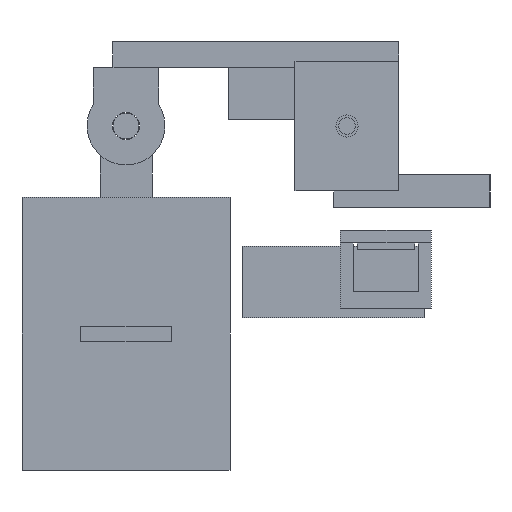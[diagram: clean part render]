
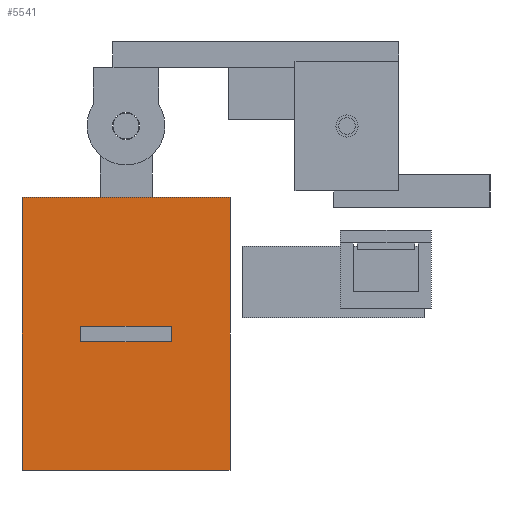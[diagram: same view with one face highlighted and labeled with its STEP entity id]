
A CAD part, left-side view. The second image highlights one B-rep face of the part: STEP entity #5541.
In plain terms, the highlighted planar face has unit normal (-1, 0, 0).
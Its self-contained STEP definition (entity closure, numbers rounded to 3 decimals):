
#5541 = ADVANCED_FACE('',(#5542,#5661),#5556,.F.);
#5542 = FACE_BOUND('',#5543,.F.);
#5543 = EDGE_LOOP('',(#5544,#5579,#5607,#5635));
#5544 = ORIENTED_EDGE('',*,*,#5545,.F.);
#5545 = EDGE_CURVE('',#5546,#5548,#5550,.T.);
#5546 = VERTEX_POINT('',#5547);
#5547 = CARTESIAN_POINT('',(5.,18.,-13.));
#5548 = VERTEX_POINT('',#5549);
#5549 = CARTESIAN_POINT('',(5.,18.,29.));
#5550 = SURFACE_CURVE('',#5551,(#5555,#5567),.PCURVE_S1.);
#5551 = LINE('',#5552,#5553);
#5552 = CARTESIAN_POINT('',(5.,18.,-13.));
#5553 = VECTOR('',#5554,1.);
#5554 = DIRECTION('',(0.,0.,1.));
#5555 = PCURVE('',#5556,#5561);
#5556 = PLANE('',#5557);
#5557 = AXIS2_PLACEMENT_3D('',#5558,#5559,#5560);
#5558 = CARTESIAN_POINT('',(5.,18.,-13.));
#5559 = DIRECTION('',(1.,0.,0.));
#5560 = DIRECTION('',(0.,0.,1.));
#5561 = DEFINITIONAL_REPRESENTATION('',(#5562),#5566);
#5562 = LINE('',#5563,#5564);
#5563 = CARTESIAN_POINT('',(0.,0.));
#5564 = VECTOR('',#5565,1.);
#5565 = DIRECTION('',(1.,0.));
#5566 = ( GEOMETRIC_REPRESENTATION_CONTEXT(2) 
PARAMETRIC_REPRESENTATION_CONTEXT() REPRESENTATION_CONTEXT('2D SPACE',''
  ) );
#5567 = PCURVE('',#5568,#5573);
#5568 = PLANE('',#5569);
#5569 = AXIS2_PLACEMENT_3D('',#5570,#5571,#5572);
#5570 = CARTESIAN_POINT('',(5.,18.,-13.));
#5571 = DIRECTION('',(0.,1.,0.));
#5572 = DIRECTION('',(0.,0.,1.));
#5573 = DEFINITIONAL_REPRESENTATION('',(#5574),#5578);
#5574 = LINE('',#5575,#5576);
#5575 = CARTESIAN_POINT('',(0.,0.));
#5576 = VECTOR('',#5577,1.);
#5577 = DIRECTION('',(1.,0.));
#5578 = ( GEOMETRIC_REPRESENTATION_CONTEXT(2) 
PARAMETRIC_REPRESENTATION_CONTEXT() REPRESENTATION_CONTEXT('2D SPACE',''
  ) );
#5579 = ORIENTED_EDGE('',*,*,#5580,.T.);
#5580 = EDGE_CURVE('',#5546,#5581,#5583,.T.);
#5581 = VERTEX_POINT('',#5582);
#5582 = CARTESIAN_POINT('',(5.,50.,-13.));
#5583 = SURFACE_CURVE('',#5584,(#5588,#5595),.PCURVE_S1.);
#5584 = LINE('',#5585,#5586);
#5585 = CARTESIAN_POINT('',(5.,18.,-13.));
#5586 = VECTOR('',#5587,1.);
#5587 = DIRECTION('',(0.,1.,0.));
#5588 = PCURVE('',#5556,#5589);
#5589 = DEFINITIONAL_REPRESENTATION('',(#5590),#5594);
#5590 = LINE('',#5591,#5592);
#5591 = CARTESIAN_POINT('',(0.,0.));
#5592 = VECTOR('',#5593,1.);
#5593 = DIRECTION('',(0.,-1.));
#5594 = ( GEOMETRIC_REPRESENTATION_CONTEXT(2) 
PARAMETRIC_REPRESENTATION_CONTEXT() REPRESENTATION_CONTEXT('2D SPACE',''
  ) );
#5595 = PCURVE('',#5596,#5601);
#5596 = PLANE('',#5597);
#5597 = AXIS2_PLACEMENT_3D('',#5598,#5599,#5600);
#5598 = CARTESIAN_POINT('',(5.,18.,-13.));
#5599 = DIRECTION('',(0.,0.,1.));
#5600 = DIRECTION('',(1.,0.,0.));
#5601 = DEFINITIONAL_REPRESENTATION('',(#5602),#5606);
#5602 = LINE('',#5603,#5604);
#5603 = CARTESIAN_POINT('',(0.,0.));
#5604 = VECTOR('',#5605,1.);
#5605 = DIRECTION('',(0.,1.));
#5606 = ( GEOMETRIC_REPRESENTATION_CONTEXT(2) 
PARAMETRIC_REPRESENTATION_CONTEXT() REPRESENTATION_CONTEXT('2D SPACE',''
  ) );
#5607 = ORIENTED_EDGE('',*,*,#5608,.T.);
#5608 = EDGE_CURVE('',#5581,#5609,#5611,.T.);
#5609 = VERTEX_POINT('',#5610);
#5610 = CARTESIAN_POINT('',(5.,50.,29.));
#5611 = SURFACE_CURVE('',#5612,(#5616,#5623),.PCURVE_S1.);
#5612 = LINE('',#5613,#5614);
#5613 = CARTESIAN_POINT('',(5.,50.,-13.));
#5614 = VECTOR('',#5615,1.);
#5615 = DIRECTION('',(0.,0.,1.));
#5616 = PCURVE('',#5556,#5617);
#5617 = DEFINITIONAL_REPRESENTATION('',(#5618),#5622);
#5618 = LINE('',#5619,#5620);
#5619 = CARTESIAN_POINT('',(0.,-32.));
#5620 = VECTOR('',#5621,1.);
#5621 = DIRECTION('',(1.,0.));
#5622 = ( GEOMETRIC_REPRESENTATION_CONTEXT(2) 
PARAMETRIC_REPRESENTATION_CONTEXT() REPRESENTATION_CONTEXT('2D SPACE',''
  ) );
#5623 = PCURVE('',#5624,#5629);
#5624 = PLANE('',#5625);
#5625 = AXIS2_PLACEMENT_3D('',#5626,#5627,#5628);
#5626 = CARTESIAN_POINT('',(5.,50.,-13.));
#5627 = DIRECTION('',(0.,1.,0.));
#5628 = DIRECTION('',(0.,0.,1.));
#5629 = DEFINITIONAL_REPRESENTATION('',(#5630),#5634);
#5630 = LINE('',#5631,#5632);
#5631 = CARTESIAN_POINT('',(0.,0.));
#5632 = VECTOR('',#5633,1.);
#5633 = DIRECTION('',(1.,0.));
#5634 = ( GEOMETRIC_REPRESENTATION_CONTEXT(2) 
PARAMETRIC_REPRESENTATION_CONTEXT() REPRESENTATION_CONTEXT('2D SPACE',''
  ) );
#5635 = ORIENTED_EDGE('',*,*,#5636,.F.);
#5636 = EDGE_CURVE('',#5548,#5609,#5637,.T.);
#5637 = SURFACE_CURVE('',#5638,(#5642,#5649),.PCURVE_S1.);
#5638 = LINE('',#5639,#5640);
#5639 = CARTESIAN_POINT('',(5.,18.,29.));
#5640 = VECTOR('',#5641,1.);
#5641 = DIRECTION('',(0.,1.,0.));
#5642 = PCURVE('',#5556,#5643);
#5643 = DEFINITIONAL_REPRESENTATION('',(#5644),#5648);
#5644 = LINE('',#5645,#5646);
#5645 = CARTESIAN_POINT('',(42.,0.));
#5646 = VECTOR('',#5647,1.);
#5647 = DIRECTION('',(0.,-1.));
#5648 = ( GEOMETRIC_REPRESENTATION_CONTEXT(2) 
PARAMETRIC_REPRESENTATION_CONTEXT() REPRESENTATION_CONTEXT('2D SPACE',''
  ) );
#5649 = PCURVE('',#5650,#5655);
#5650 = PLANE('',#5651);
#5651 = AXIS2_PLACEMENT_3D('',#5652,#5653,#5654);
#5652 = CARTESIAN_POINT('',(5.,18.,29.));
#5653 = DIRECTION('',(0.,0.,1.));
#5654 = DIRECTION('',(1.,0.,0.));
#5655 = DEFINITIONAL_REPRESENTATION('',(#5656),#5660);
#5656 = LINE('',#5657,#5658);
#5657 = CARTESIAN_POINT('',(0.,0.));
#5658 = VECTOR('',#5659,1.);
#5659 = DIRECTION('',(0.,1.));
#5660 = ( GEOMETRIC_REPRESENTATION_CONTEXT(2) 
PARAMETRIC_REPRESENTATION_CONTEXT() REPRESENTATION_CONTEXT('2D SPACE',''
  ) );
#5661 = FACE_BOUND('',#5662,.F.);
#5662 = EDGE_LOOP('',(#5663,#5691,#5717,#5743));
#5663 = ORIENTED_EDGE('',*,*,#5664,.T.);
#5664 = EDGE_CURVE('',#5665,#5667,#5669,.T.);
#5665 = VERTEX_POINT('',#5666);
#5666 = CARTESIAN_POINT('',(5.,41.,6.8));
#5667 = VERTEX_POINT('',#5668);
#5668 = CARTESIAN_POINT('',(5.,27.,6.8));
#5669 = SURFACE_CURVE('',#5670,(#5674,#5680),.PCURVE_S1.);
#5670 = LINE('',#5671,#5672);
#5671 = CARTESIAN_POINT('',(5.,22.5,6.8));
#5672 = VECTOR('',#5673,1.);
#5673 = DIRECTION('',(0.,-1.,0.));
#5674 = PCURVE('',#5556,#5675);
#5675 = DEFINITIONAL_REPRESENTATION('',(#5676),#5679);
#5676 = B_SPLINE_CURVE_WITH_KNOTS('',1,(#5677,#5678),.UNSPECIFIED.,.F.,
  .F.,(2,2),(-18.5,-4.5),.PIECEWISE_BEZIER_KNOTS.);
#5677 = CARTESIAN_POINT('',(19.8,-23.));
#5678 = CARTESIAN_POINT('',(19.8,-9.));
#5679 = ( GEOMETRIC_REPRESENTATION_CONTEXT(2) 
PARAMETRIC_REPRESENTATION_CONTEXT() REPRESENTATION_CONTEXT('2D SPACE',''
  ) );
#5680 = PCURVE('',#5681,#5686);
#5681 = PLANE('',#5682);
#5682 = AXIS2_PLACEMENT_3D('',#5683,#5684,#5685);
#5683 = CARTESIAN_POINT('',(4.,27.,6.8));
#5684 = DIRECTION('',(0.,0.,1.));
#5685 = DIRECTION('',(1.,0.,0.));
#5686 = DEFINITIONAL_REPRESENTATION('',(#5687),#5690);
#5687 = B_SPLINE_CURVE_WITH_KNOTS('',1,(#5688,#5689),.UNSPECIFIED.,.F.,
  .F.,(2,2),(-18.5,-4.5),.PIECEWISE_BEZIER_KNOTS.);
#5688 = CARTESIAN_POINT('',(1.,14.));
#5689 = CARTESIAN_POINT('',(1.,0.));
#5690 = ( GEOMETRIC_REPRESENTATION_CONTEXT(2) 
PARAMETRIC_REPRESENTATION_CONTEXT() REPRESENTATION_CONTEXT('2D SPACE',''
  ) );
#5691 = ORIENTED_EDGE('',*,*,#5692,.T.);
#5692 = EDGE_CURVE('',#5667,#5693,#5695,.T.);
#5693 = VERTEX_POINT('',#5694);
#5694 = CARTESIAN_POINT('',(5.,27.,9.2));
#5695 = SURFACE_CURVE('',#5696,(#5700,#5706),.PCURVE_S1.);
#5696 = LINE('',#5697,#5698);
#5697 = CARTESIAN_POINT('',(5.,27.,-3.1));
#5698 = VECTOR('',#5699,1.);
#5699 = DIRECTION('',(0.,0.,1.));
#5700 = PCURVE('',#5556,#5701);
#5701 = DEFINITIONAL_REPRESENTATION('',(#5702),#5705);
#5702 = B_SPLINE_CURVE_WITH_KNOTS('',1,(#5703,#5704),.UNSPECIFIED.,.F.,
  .F.,(2,2),(9.9,12.3),.PIECEWISE_BEZIER_KNOTS.);
#5703 = CARTESIAN_POINT('',(19.8,-9.));
#5704 = CARTESIAN_POINT('',(22.2,-9.));
#5705 = ( GEOMETRIC_REPRESENTATION_CONTEXT(2) 
PARAMETRIC_REPRESENTATION_CONTEXT() REPRESENTATION_CONTEXT('2D SPACE',''
  ) );
#5706 = PCURVE('',#5707,#5712);
#5707 = PLANE('',#5708);
#5708 = AXIS2_PLACEMENT_3D('',#5709,#5710,#5711);
#5709 = CARTESIAN_POINT('',(4.,27.,6.8));
#5710 = DIRECTION('',(0.,1.,0.));
#5711 = DIRECTION('',(0.,0.,1.));
#5712 = DEFINITIONAL_REPRESENTATION('',(#5713),#5716);
#5713 = B_SPLINE_CURVE_WITH_KNOTS('',1,(#5714,#5715),.UNSPECIFIED.,.F.,
  .F.,(2,2),(9.9,12.3),.PIECEWISE_BEZIER_KNOTS.);
#5714 = CARTESIAN_POINT('',(0.,1.));
#5715 = CARTESIAN_POINT('',(2.4,1.));
#5716 = ( GEOMETRIC_REPRESENTATION_CONTEXT(2) 
PARAMETRIC_REPRESENTATION_CONTEXT() REPRESENTATION_CONTEXT('2D SPACE',''
  ) );
#5717 = ORIENTED_EDGE('',*,*,#5718,.F.);
#5718 = EDGE_CURVE('',#5719,#5693,#5721,.T.);
#5719 = VERTEX_POINT('',#5720);
#5720 = CARTESIAN_POINT('',(5.,41.,9.2));
#5721 = SURFACE_CURVE('',#5722,(#5726,#5732),.PCURVE_S1.);
#5722 = LINE('',#5723,#5724);
#5723 = CARTESIAN_POINT('',(5.,22.5,9.2));
#5724 = VECTOR('',#5725,1.);
#5725 = DIRECTION('',(0.,-1.,0.));
#5726 = PCURVE('',#5556,#5727);
#5727 = DEFINITIONAL_REPRESENTATION('',(#5728),#5731);
#5728 = B_SPLINE_CURVE_WITH_KNOTS('',1,(#5729,#5730),.UNSPECIFIED.,.F.,
  .F.,(2,2),(-18.5,-4.5),.PIECEWISE_BEZIER_KNOTS.);
#5729 = CARTESIAN_POINT('',(22.2,-23.));
#5730 = CARTESIAN_POINT('',(22.2,-9.));
#5731 = ( GEOMETRIC_REPRESENTATION_CONTEXT(2) 
PARAMETRIC_REPRESENTATION_CONTEXT() REPRESENTATION_CONTEXT('2D SPACE',''
  ) );
#5732 = PCURVE('',#5733,#5738);
#5733 = PLANE('',#5734);
#5734 = AXIS2_PLACEMENT_3D('',#5735,#5736,#5737);
#5735 = CARTESIAN_POINT('',(4.,27.,9.2));
#5736 = DIRECTION('',(0.,0.,1.));
#5737 = DIRECTION('',(1.,0.,0.));
#5738 = DEFINITIONAL_REPRESENTATION('',(#5739),#5742);
#5739 = B_SPLINE_CURVE_WITH_KNOTS('',1,(#5740,#5741),.UNSPECIFIED.,.F.,
  .F.,(2,2),(-18.5,-4.5),.PIECEWISE_BEZIER_KNOTS.);
#5740 = CARTESIAN_POINT('',(1.,14.));
#5741 = CARTESIAN_POINT('',(1.,0.));
#5742 = ( GEOMETRIC_REPRESENTATION_CONTEXT(2) 
PARAMETRIC_REPRESENTATION_CONTEXT() REPRESENTATION_CONTEXT('2D SPACE',''
  ) );
#5743 = ORIENTED_EDGE('',*,*,#5744,.F.);
#5744 = EDGE_CURVE('',#5665,#5719,#5745,.T.);
#5745 = SURFACE_CURVE('',#5746,(#5750,#5756),.PCURVE_S1.);
#5746 = LINE('',#5747,#5748);
#5747 = CARTESIAN_POINT('',(5.,41.,-3.1));
#5748 = VECTOR('',#5749,1.);
#5749 = DIRECTION('',(0.,0.,1.));
#5750 = PCURVE('',#5556,#5751);
#5751 = DEFINITIONAL_REPRESENTATION('',(#5752),#5755);
#5752 = B_SPLINE_CURVE_WITH_KNOTS('',1,(#5753,#5754),.UNSPECIFIED.,.F.,
  .F.,(2,2),(9.9,12.3),.PIECEWISE_BEZIER_KNOTS.);
#5753 = CARTESIAN_POINT('',(19.8,-23.));
#5754 = CARTESIAN_POINT('',(22.2,-23.));
#5755 = ( GEOMETRIC_REPRESENTATION_CONTEXT(2) 
PARAMETRIC_REPRESENTATION_CONTEXT() REPRESENTATION_CONTEXT('2D SPACE',''
  ) );
#5756 = PCURVE('',#5757,#5762);
#5757 = PLANE('',#5758);
#5758 = AXIS2_PLACEMENT_3D('',#5759,#5760,#5761);
#5759 = CARTESIAN_POINT('',(4.,41.,6.8));
#5760 = DIRECTION('',(0.,1.,0.));
#5761 = DIRECTION('',(0.,0.,1.));
#5762 = DEFINITIONAL_REPRESENTATION('',(#5763),#5766);
#5763 = B_SPLINE_CURVE_WITH_KNOTS('',1,(#5764,#5765),.UNSPECIFIED.,.F.,
  .F.,(2,2),(9.9,12.3),.PIECEWISE_BEZIER_KNOTS.);
#5764 = CARTESIAN_POINT('',(0.,1.));
#5765 = CARTESIAN_POINT('',(2.4,1.));
#5766 = ( GEOMETRIC_REPRESENTATION_CONTEXT(2) 
PARAMETRIC_REPRESENTATION_CONTEXT() REPRESENTATION_CONTEXT('2D SPACE',''
  ) );
